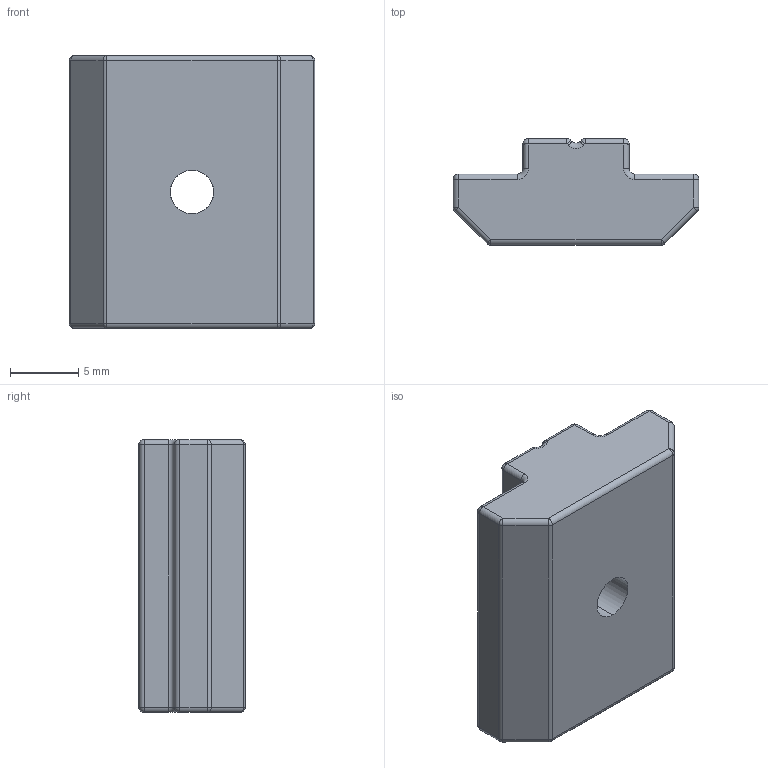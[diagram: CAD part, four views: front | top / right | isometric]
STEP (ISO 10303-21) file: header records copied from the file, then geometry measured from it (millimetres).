
FILE_DESCRIPTION (( 'STEP AP203' ), '1' );
FILE_NAME ('5185.STEP', '2016-04-22T16:36:39', ( '' ), ( '' ), 'SwSTEP 2.0', 'SolidWorks 2014', '' );
FILE_SCHEMA (( 'CONFIG_CONTROL_DESIGN' ));
Length unit declared in the file: millimetre
Products named in the file (1): 5185
Bounding box: 18 x 7.8 x 20 mm (x, y, z)
Volume: 2071 mm3; surface area: 1211.6 mm2
Topology: 1 solids, 1 shells, 87 faces, 202 edges, 100 vertices
Faces by surface type: cylinder 44, sphere 20, plane 17, torus 6
Entity records: 2381 total; most frequent: DIRECTION 438, CARTESIAN_POINT 410, ORIENTED_EDGE 372, EDGE_CURVE 186, AXIS2_PLACEMENT_3D 176, VERTEX_POINT 100, CIRCLE 88, EDGE_LOOP 88
